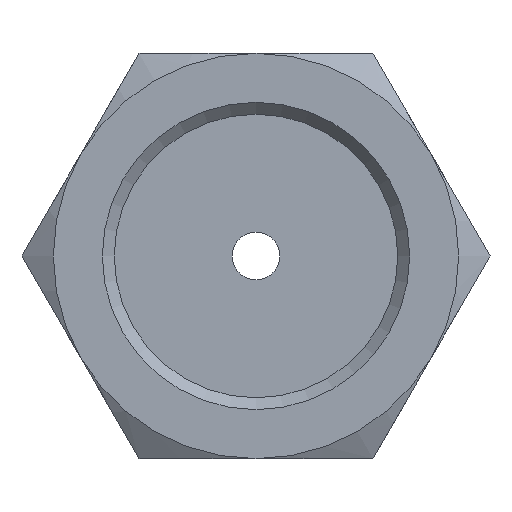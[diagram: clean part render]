
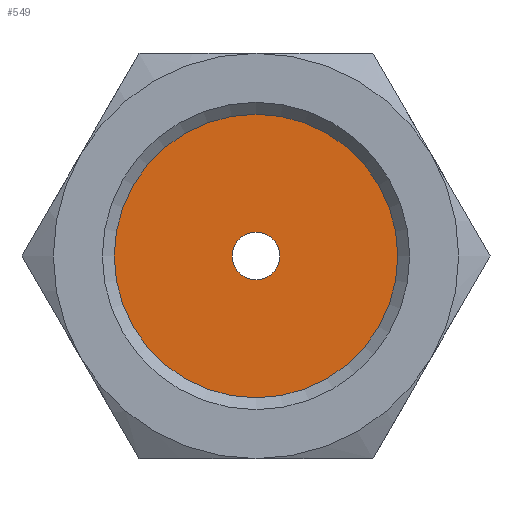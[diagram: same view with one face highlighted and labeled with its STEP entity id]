
A CAD part, front view. The second image highlights one B-rep face of the part: STEP entity #549.
In plain terms, the highlighted planar face has unit normal (0, -1, 0).
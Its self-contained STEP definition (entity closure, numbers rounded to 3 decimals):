
#43=FACE_BOUND('',#134,.T.);
#56=PLANE('',#635);
#95=FACE_OUTER_BOUND('',#133,.T.);
#133=EDGE_LOOP('',(#473,#474));
#134=EDGE_LOOP('',(#475,#476));
#190=CIRCLE('',#598,5.945);
#191=CIRCLE('',#599,5.945);
#205=CIRCLE('',#636,1.);
#206=CIRCLE('',#637,1.);
#231=VERTEX_POINT('',#863);
#232=VERTEX_POINT('',#865);
#257=VERTEX_POINT('',#1008);
#258=VERTEX_POINT('',#1009);
#287=EDGE_CURVE('',#232,#231,#190,.T.);
#288=EDGE_CURVE('',#231,#232,#191,.T.);
#334=EDGE_CURVE('',#257,#258,#205,.T.);
#335=EDGE_CURVE('',#258,#257,#206,.T.);
#473=ORIENTED_EDGE('',*,*,#287,.T.);
#474=ORIENTED_EDGE('',*,*,#288,.T.);
#475=ORIENTED_EDGE('',*,*,#334,.F.);
#476=ORIENTED_EDGE('',*,*,#335,.F.);
#549=ADVANCED_FACE('',(#95,#43),#56,.T.);
#598=AXIS2_PLACEMENT_3D('',#866,#702,#703);
#599=AXIS2_PLACEMENT_3D('',#867,#704,#705);
#635=AXIS2_PLACEMENT_3D('',#1007,#784,#785);
#636=AXIS2_PLACEMENT_3D('',#1010,#786,#787);
#637=AXIS2_PLACEMENT_3D('',#1011,#788,#789);
#702=DIRECTION('center_axis',(0.,-1.,0.));
#703=DIRECTION('ref_axis',(1.,0.,0.));
#704=DIRECTION('center_axis',(0.,-1.,0.));
#705=DIRECTION('ref_axis',(1.,0.,0.));
#784=DIRECTION('center_axis',(0.,-1.,0.));
#785=DIRECTION('ref_axis',(0.,0.,-1.));
#786=DIRECTION('center_axis',(0.,-1.,0.));
#787=DIRECTION('ref_axis',(1.,0.,0.));
#788=DIRECTION('center_axis',(0.,-1.,0.));
#789=DIRECTION('ref_axis',(1.,0.,0.));
#863=CARTESIAN_POINT('',(-5.945,11.,0.));
#865=CARTESIAN_POINT('',(5.945,11.,0.));
#866=CARTESIAN_POINT('Origin',(0.,11.,0.));
#867=CARTESIAN_POINT('Origin',(0.,11.,0.));
#1007=CARTESIAN_POINT('Origin',(1.,11.,0.));
#1008=CARTESIAN_POINT('',(1.,11.,0.));
#1009=CARTESIAN_POINT('',(-1.,11.,0.));
#1010=CARTESIAN_POINT('Origin',(0.,11.,0.));
#1011=CARTESIAN_POINT('Origin',(0.,11.,0.));
